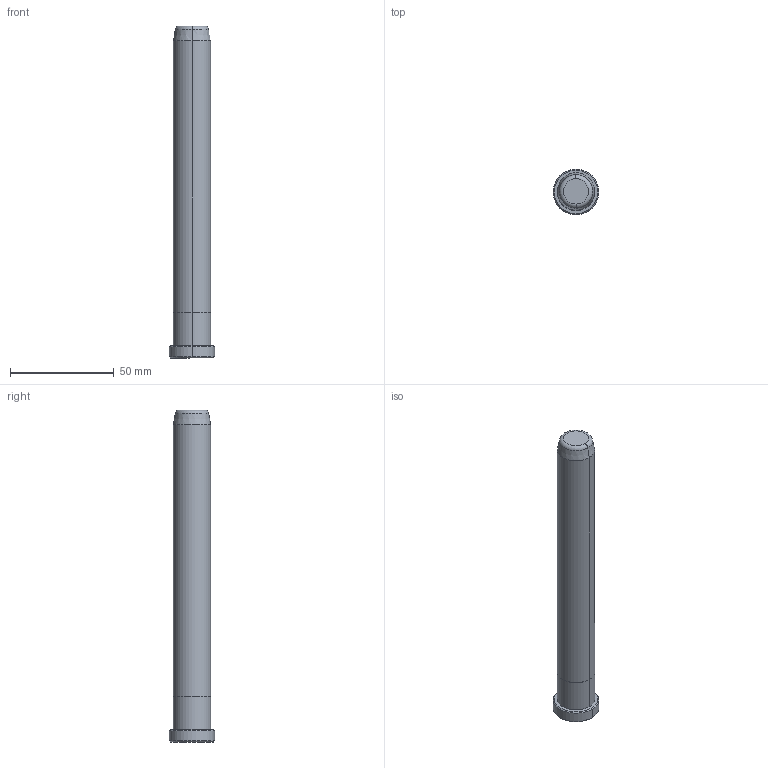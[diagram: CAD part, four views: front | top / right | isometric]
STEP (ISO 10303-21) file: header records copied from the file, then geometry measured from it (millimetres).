
FILE_DESCRIPTION((''),'2;1');
FILE_NAME('B82818160','2018-01-22T',('MANU'),(''),'PRO/ENGINEER BY PARAMETRIC TECHNOLOGY CORPORATION, 2012130','PRO/ENGINEER BY PARAMETRIC TECHNOLOGY CORPORATION, 2012130','');
FILE_SCHEMA(('CONFIG_CONTROL_DESIGN'));
Length unit declared in the file: millimetre
Products named in the file (1): B82818160
Bounding box: 22 x 22 x 160 mm (x, y, z)
Volume: 41201.5 mm3; surface area: 9728 mm2
Topology: 1 solids, 1 shells, 18 faces, 34 edges, 20 vertices
Faces by surface type: cone 6, cylinder 6, plane 4, torus 2
Entity records: 494 total; most frequent: DIRECTION 92, CARTESIAN_POINT 72, ORIENTED_EDGE 68, AXIS2_PLACEMENT_3D 40, EDGE_CURVE 34, CIRCLE 22, VERTEX_POINT 20, EDGE_LOOP 20
